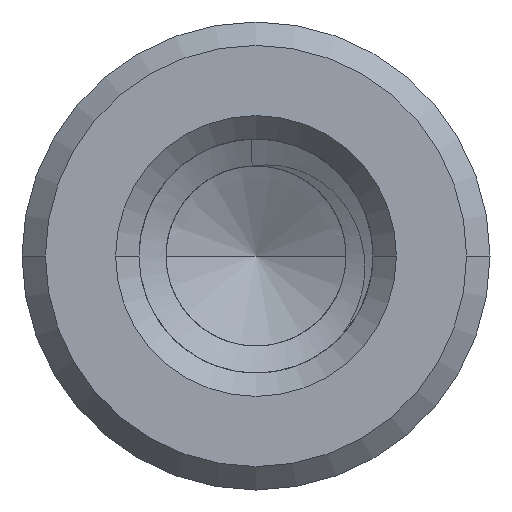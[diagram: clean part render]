
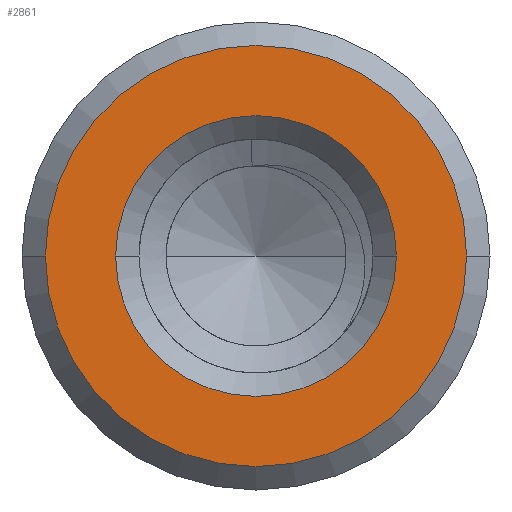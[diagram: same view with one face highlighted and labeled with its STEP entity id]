
A CAD part, front view. The second image highlights one B-rep face of the part: STEP entity #2861.
In plain terms, the highlighted planar face has unit normal (0, -1, 0).
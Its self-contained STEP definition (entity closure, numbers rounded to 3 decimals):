
#1=CARTESIAN_POINT('',(0.,-76.,0.));
#2=DIRECTION('',(0.,1.,0.));
#3=DIRECTION('',(-1.,0.,0.));
#4=AXIS2_PLACEMENT_3D('',#1,#2,#3);
#6=CARTESIAN_POINT('',(0.,-76.,0.));
#7=DIRECTION('',(0.,1.,0.));
#8=DIRECTION('',(1.,0.,0.));
#9=AXIS2_PLACEMENT_3D('',#6,#7,#8);
#11=CARTESIAN_POINT('',(0.,-76.,0.));
#12=DIRECTION('',(0.,-1.,0.));
#13=DIRECTION('',(1.,0.,0.));
#14=AXIS2_PLACEMENT_3D('',#11,#12,#13);
#16=CARTESIAN_POINT('',(0.,-76.,0.));
#17=DIRECTION('',(0.,-1.,0.));
#18=DIRECTION('',(-1.,0.,0.));
#19=AXIS2_PLACEMENT_3D('',#16,#17,#18);
#2820=CARTESIAN_POINT('',(-1.8,-76.,0.));
#2821=CARTESIAN_POINT('',(1.8,-76.,0.));
#2822=VERTEX_POINT('',#2820);
#2823=VERTEX_POINT('',#2821);
#2828=CARTESIAN_POINT('',(2.7,-76.,0.));
#2829=CARTESIAN_POINT('',(-2.7,-76.,0.));
#2830=VERTEX_POINT('',#2828);
#2831=VERTEX_POINT('',#2829);
#2844=CARTESIAN_POINT('',(0.,-76.,0.));
#2845=DIRECTION('',(0.,1.,0.));
#2846=DIRECTION('',(1.,0.,0.));
#2847=AXIS2_PLACEMENT_3D('',#2844,#2845,#2846);
#2848=PLANE('',#2847);
#2850=ORIENTED_EDGE('',*,*,#2849,.F.);
#2852=ORIENTED_EDGE('',*,*,#2851,.F.);
#2853=EDGE_LOOP('',(#2850,#2852));
#2854=FACE_OUTER_BOUND('',#2853,.F.);
#2856=ORIENTED_EDGE('',*,*,#2855,.F.);
#2858=ORIENTED_EDGE('',*,*,#2857,.F.);
#2859=EDGE_LOOP('',(#2856,#2858));
#2860=FACE_BOUND('',#2859,.F.);
#2861=ADVANCED_FACE('',(#2854,#2860),#2848,.F.);
#5=CIRCLE('',#4,1.8);
#10=CIRCLE('',#9,1.8);
#15=CIRCLE('',#14,2.7);
#20=CIRCLE('',#19,2.7);
#2849=EDGE_CURVE('',#2830,#2831,#15,.T.);
#2851=EDGE_CURVE('',#2831,#2830,#20,.T.);
#2855=EDGE_CURVE('',#2822,#2823,#5,.T.);
#2857=EDGE_CURVE('',#2823,#2822,#10,.T.);
